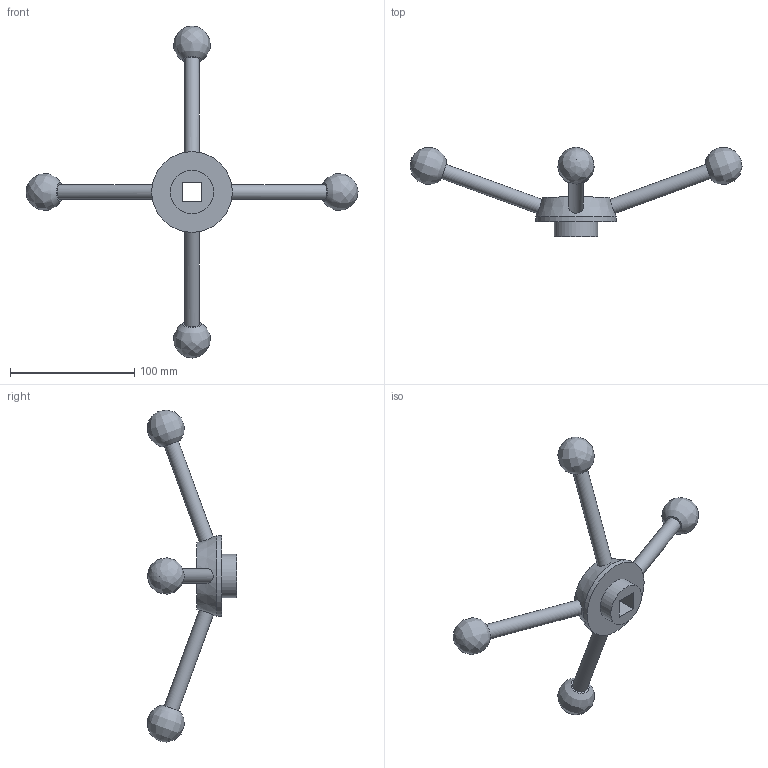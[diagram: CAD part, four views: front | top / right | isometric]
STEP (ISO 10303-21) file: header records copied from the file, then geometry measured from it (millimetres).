
FILE_DESCRIPTION( ( 'STEP AP203' ), '1' );
FILE_NAME( 'C:/Temp/Ganter_Step_05_03_2020/data/2_1/gn_213/gn_213_v/Turret lever GN 213-65-V16.stp', '2020-03-05T11:51:20', ( 'License CC BY-ND 4.0' ), ( 'CADENAS' ), ' ', 'PARTsolutions', ' ' );
FILE_SCHEMA( ( 'CONFIG_CONTROL_DESIGN' ) );
Length unit declared in the file: millimetre
Products named in the file (1): _Turret lever GN 213-65-V16
Bounding box: 267.48 x 71.97 x 267.48 mm (x, y, z)
Volume: 154114 mm3; surface area: 35178.6 mm2
Topology: 1 solids, 1 shells, 22 faces, 50 edges, 34 vertices
Faces by surface type: plane 11, cylinder 6, bspline 4, cone 1
Full cylindrical faces by diameter (mm): 12 x4, 35 x1, 65 x1
Entity records: 968 total; most frequent: CARTESIAN_POINT 527, DIRECTION 76, ORIENTED_EDGE 58, EDGE_LOOP 40, AXIS2_PLACEMENT_3D 32, VERTEX_POINT 29, EDGE_CURVE 29, FACE_OUTER_BOUND 28
